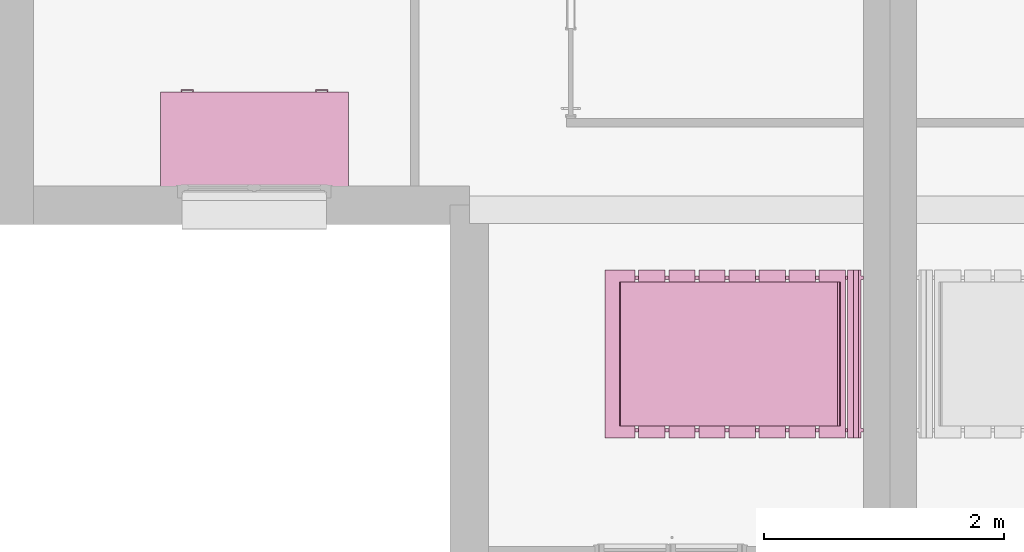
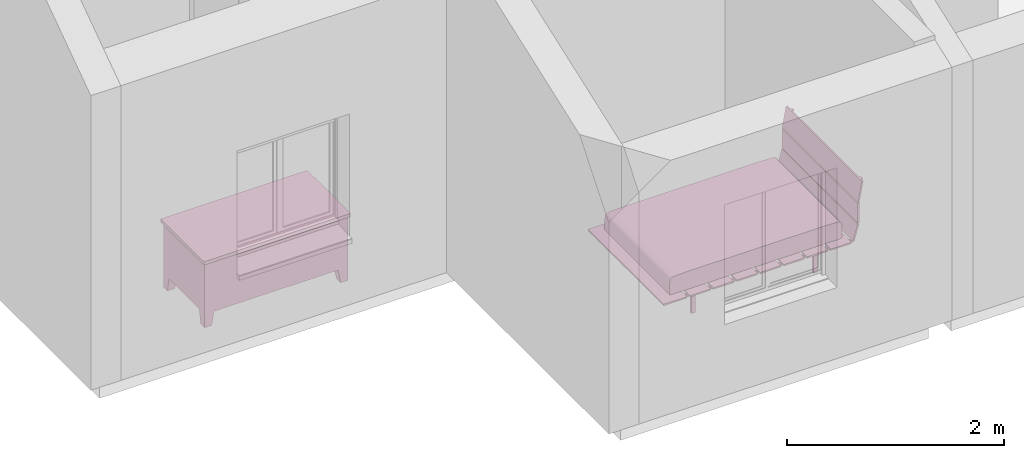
# One storey, part 51 of 61: 2 furnishings.
"""IFC2X3 building model written with IfcOpenShell, lengths in metres."""

from ifc_helpers import new_model, entity, si_unit, converted_unit, derived_unit, direction, frame, frame_2d, origin, origin_2d_with_axis, place, context, subcontext, project, spatial, polyline, circle_curve, parameter, trimmed, segment, composite_curve, rectangle, outline, extrude, faceted_brep, source, transform, mapped, material, material_list, type_object, type_shapes, element, save


model = new_model("IFC2X3")

# Units and contexts
model_context = context("Model", 3, precision=1e-05, world=origin(), true_north=direction((6.12303176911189e-17, 1.0)))
body_context = subcontext(model_context, "Body", "Model", "MODEL_VIEW")
ifc_project = project(units=[si_unit("LENGTHUNIT", "METRE"), si_unit("AREAUNIT", "SQUARE_METRE"), si_unit("VOLUMEUNIT", "CUBIC_METRE"), converted_unit("PLANEANGLEUNIT", "DEGREE", entity("IfcRatioMeasure", 0.0174532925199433), si_unit("PLANEANGLEUNIT", "RADIAN"), dimensions=[0, 0, 0, 0, 0, 0, 0]), si_unit("MASSUNIT", "GRAM", prefix="KILO"), derived_unit("MASSDENSITYUNIT", [(si_unit("MASSUNIT", "GRAM", prefix="KILO"), 1), (si_unit("LENGTHUNIT", "METRE"), -3)]), si_unit("TIMEUNIT", "SECOND"), si_unit("FREQUENCYUNIT", "HERTZ"), si_unit("THERMODYNAMICTEMPERATUREUNIT", "DEGREE_CELSIUS"), derived_unit("THERMALTRANSMITTANCEUNIT", [(si_unit("MASSUNIT", "GRAM", prefix="KILO"), 1), (si_unit("THERMODYNAMICTEMPERATUREUNIT", "KELVIN"), -1), (si_unit("TIMEUNIT", "SECOND"), -3)]), derived_unit("VOLUMETRICFLOWRATEUNIT", [(si_unit("LENGTHUNIT", "METRE"), 3), (si_unit("TIMEUNIT", "SECOND"), -1)]), si_unit("ELECTRICCURRENTUNIT", "AMPERE"), si_unit("ELECTRICVOLTAGEUNIT", "VOLT"), si_unit("POWERUNIT", "WATT"), si_unit("FORCEUNIT", "NEWTON", prefix="KILO"), si_unit("ILLUMINANCEUNIT", "LUX"), si_unit("LUMINOUSFLUXUNIT", "LUMEN"), si_unit("LUMINOUSINTENSITYUNIT", "CANDELA"), derived_unit("USERDEFINED", [(si_unit("MASSUNIT", "GRAM", prefix="KILO"), -1), (si_unit("LENGTHUNIT", "METRE"), -2), (si_unit("TIMEUNIT", "SECOND"), 3), (si_unit("LUMINOUSFLUXUNIT", "LUMEN"), 1)]), derived_unit("LINEARVELOCITYUNIT", [(si_unit("LENGTHUNIT", "METRE"), 1), (si_unit("TIMEUNIT", "SECOND"), -1)]), si_unit("PRESSUREUNIT", "PASCAL"), derived_unit("USERDEFINED", [(si_unit("LENGTHUNIT", "METRE"), -2), (si_unit("MASSUNIT", "GRAM", prefix="KILO"), 1), (si_unit("TIMEUNIT", "SECOND"), -2)])], contexts=[model_context])

# Site, building, storey
site_placement = place(None, origin())
site = spatial("IfcSite", under=ifc_project, at=site_placement, Name="Surface", CompositionType="ELEMENT")
building_placement = place(site_placement, origin())
building = spatial("IfcBuilding", under=site, at=building_placement, CompositionType="ELEMENT")
storey_placement = place(building_placement, frame((0.0, 0.0, 2.82)))
storey = spatial("IfcBuildingStorey", under=building, at=storey_placement, Name="ETAGE", CompositionType="ELEMENT", Elevation=2.82)

# Furnishings
ifc_material_1 = material(Name="Textile - Bleu pâle")
ifc_material_2 = material(Name="Bois - Teck")
ifc_material_3 = material(Name="Plastique - Noir")
ifc_material_list_1 = material_list([ifc_material_1, ifc_material_2, ifc_material_3])
ifc_material_list_2 = material_list([ifc_material_1, ifc_material_2, ifc_material_3])
furniture_type_1 = type_object("IfcFurnitureType", Name="1900 mm x 2000 mm", material=ifc_material_list_2)
shared_shape_1 = source(origin(), body_context, "Body", "SweptSolid", [
    extrude(outline(composite_curve([segment(polyline([(0.753947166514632, -0.0964613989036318), (0.883258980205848, -0.0964613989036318)]), True, "CONTINUOUS"), segment(trimmed(circle_curve(frame_2d((0.82804087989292, 1.1581587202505), x_axis=(0.999878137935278, -0.0156111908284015)), 1.25583465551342), [parameter(273.414556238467)], [parameter(275.726345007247)], True, "PARAMETER"), True, "CONTINUOUS"), segment(trimmed(circle_curve(frame_2d((0.929150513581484, -0.0379486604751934), x_axis=(0.999878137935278, -0.0156111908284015)), 0.0554613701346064), [parameter(275.726345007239)], [parameter(297.64810869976)], True, "PARAMETER"), True, "CONTINUOUS"), segment(trimmed(circle_curve(frame_2d((0.943544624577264, -0.0665015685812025), x_axis=(0.999878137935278, -0.0156111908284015)), 0.0234854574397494), [parameter(297.648108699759)], [parameter(348.570161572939)], True, "PARAMETER"), True, "CONTINUOUS"), segment(trimmed(circle_curve(frame_2d((0.767446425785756, -0.0280276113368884), x_axis=(0.999878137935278, -0.0156111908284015)), 0.203737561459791), [parameter(348.570161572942)], [parameter(3.56222124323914e-13)], True, "PARAMETER"), True, "CONTINUOUS"), segment(polyline([(0.971159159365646, -0.0312081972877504), (0.97301851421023, 0.0878812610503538)]), True, "CONTINUOUS"), segment(polyline([(0.97301851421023, 0.0878812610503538), (0.971187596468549, 0.10002359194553)]), True, "CONTINUOUS"), segment(polyline([(0.971187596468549, 0.10002359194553), (0.955059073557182, 0.102294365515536)]), True, "CONTINUOUS"), segment(polyline([(0.955059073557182, 0.102294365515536), (-0.834665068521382, 0.130237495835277)]), True, "CONTINUOUS"), segment(polyline([(-0.834665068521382, 0.130237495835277), (-0.854928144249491, 0.12651595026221)]), True, "CONTINUOUS"), segment(polyline([(-0.854928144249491, 0.12651595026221), (-0.861114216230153, 0.118536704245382)]), True, "CONTINUOUS"), segment(polyline([(-0.861114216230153, 0.118536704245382), (-0.865626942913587, 0.0883228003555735)]), True, "CONTINUOUS"), segment(polyline([(-0.865626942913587, 0.0883228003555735), (-0.866982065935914, 0.00152878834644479)]), True, "CONTINUOUS"), segment(polyline([(-0.866982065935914, 0.00152878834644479), (-0.863446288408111, -0.0308297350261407)]), True, "CONTINUOUS"), segment(polyline([(-0.863446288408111, -0.0308297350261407), (-0.857669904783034, -0.0490905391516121)]), True, "CONTINUOUS"), segment(polyline([(-0.857669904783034, -0.0490905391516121), (-0.843687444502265, -0.0594036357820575)]), True, "CONTINUOUS"), segment(polyline([(-0.843687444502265, -0.0594036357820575), (-0.817521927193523, -0.0658690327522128)]), True, "CONTINUOUS"), segment(polyline([(-0.817521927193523, -0.0658690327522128), (-0.696416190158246, -0.0738167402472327)]), True, "CONTINUOUS"), segment(polyline([(-0.696416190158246, -0.0738167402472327), (0.753947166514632, -0.0964613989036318)]), True, "CONTINUOUS")], self_intersect=False)), frame((-0.6, -1.05656455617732, 0.367191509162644), z_axis=(1.0, 0.0, 0.0), x_axis=(0.0, -0.999878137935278, -0.0156111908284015)), (0.0, 0.0, 1.0), 1.2),
    extrude(rectangle(XDim=0.249999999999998, YDim=1.4, at=origin_2d_with_axis()), frame((0.0, -2.02499620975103, 0.232311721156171), z_axis=(0.0, 0.0, 1.0), x_axis=(0.0, 1.0, 0.0)), (0.0, 0.0, 1.0), 0.0176882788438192),
    extrude(outline(polyline([(-0.00463256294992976, -0.115042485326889), (0.0130278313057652, -0.115042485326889), (0.00471132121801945, 0.115371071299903), (-0.0131065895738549, 0.114713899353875), (-0.00463256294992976, -0.115042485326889)])), frame((-0.7, -0.051324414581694, 0.783374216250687), z_axis=(1.0, 0.0, 0.0), x_axis=(0.0, 0.975885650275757, -0.218282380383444)), (0.0, 0.0, 1.0), 1.4),
    extrude(rectangle(XDim=0.219999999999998, YDim=1.4, at=frame_2d((-1.38777878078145e-16, 0.0), x_axis=(1.0, 0.0))), frame((0.0, -1.75999620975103, 0.232311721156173), z_axis=(0.0, 0.0, 1.0), x_axis=(0.0, 1.0, 0.0)), (0.0, 0.0, 1.0), 0.0176882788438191),
    extrude(rectangle(XDim=0.219999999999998, YDim=1.4, at=frame_2d((-1.31838984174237e-16, 0.0), x_axis=(1.0, 0.0))), frame((0.0, -1.50999620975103, 0.232311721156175), z_axis=(0.0, 0.0, 1.0), x_axis=(0.0, 1.0, 0.0)), (0.0, 0.0, 1.0), 0.017688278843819),
    extrude(rectangle(XDim=0.219999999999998, YDim=1.4, at=frame_2d((-1.38777878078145e-16, 0.0), x_axis=(1.0, 0.0))), frame((0.0, -1.25999620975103, 0.232311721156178), z_axis=(0.0, 0.0, 1.0), x_axis=(0.0, 1.0, 0.0)), (0.0, 0.0, 1.0), 0.0176882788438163),
    extrude(rectangle(XDim=0.219999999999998, YDim=1.4, at=frame_2d((6.93889390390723e-17, 0.0), x_axis=(1.0, 0.0))), frame((0.0, -1.00999620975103, 0.232311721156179), z_axis=(0.0, 0.0, 1.0), x_axis=(0.0, 1.0, 0.0)), (0.0, 0.0, 1.0), 0.0176882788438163),
    extrude(rectangle(XDim=0.22, YDim=1.4, at=origin_2d_with_axis()), frame((0.0, -0.759996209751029, 0.232311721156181), z_axis=(0.0, 0.0, 1.0), x_axis=(0.0, 1.0, 0.0)), (0.0, 0.0, 1.0), 0.0176882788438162),
    extrude(rectangle(XDim=0.22, YDim=1.4, at=origin_2d_with_axis()), frame((0.0, -0.509996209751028, 0.232311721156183), z_axis=(0.0, 0.0, 1.0), x_axis=(0.0, 1.0, 0.0)), (0.0, 0.0, 1.0), 0.0176882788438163),
    extrude(rectangle(XDim=0.22, YDim=1.4, at=origin_2d_with_axis()), frame((0.0, -0.259996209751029, 0.232311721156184), z_axis=(0.0, 0.0, 1.0), x_axis=(0.0, 1.0, 0.0)), (0.0, 0.0, 1.0), 0.0176882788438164),
    extrude(rectangle(XDim=0.0183684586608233, YDim=1.4, at=origin_2d_with_axis()), frame((0.0, -0.0735868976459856, 0.443802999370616), z_axis=(0.0, 0.0, 1.0), x_axis=(0.0, 1.0, 0.0)), (0.0, 0.0, 1.0), 0.214481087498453),
    extrude(outline(polyline([(-0.0111603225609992, -0.093944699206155), (0.00684599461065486, -0.093944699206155), (0.0109625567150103, 0.0940897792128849), (-0.00664822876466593, 0.093799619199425), (-0.0111603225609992, -0.093944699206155)])), frame((-0.7, -0.100341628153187, 0.340588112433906), z_axis=(1.0, 0.0, 0.0), x_axis=(0.0, 0.969329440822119, -0.245764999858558)), (0.0, 0.0, 1.0), 1.4),
    extrude(rectangle(XDim=0.0421792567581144, YDim=0.0299999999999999, at=origin_2d_with_axis()), frame((-0.634999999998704, -1.80439834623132, 0.0), z_axis=(0.0, 0.0, 1.0), x_axis=(0.0, -1.0, 0.0)), (0.0, 0.0, 1.0), 0.204645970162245),
    extrude(rectangle(XDim=0.0421792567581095, YDim=0.0299999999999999, at=frame_2d((3.29597460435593e-17, 0.0), x_axis=(1.0, 0.0))), frame((-0.634999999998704, -0.505017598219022, 0.0), z_axis=(0.0, 0.0, 1.0), x_axis=(0.0, -1.0, 0.0)), (0.0, 0.0, 1.0), 0.204645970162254),
    extrude(rectangle(XDim=0.0421792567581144, YDim=0.0299999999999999, at=frame_2d((2.70616862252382e-16, 0.0), x_axis=(1.0, 0.0))), frame((0.635000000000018, -1.80439834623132, 0.0), z_axis=(0.0, 0.0, 1.0), x_axis=(0.0, 1.0, 0.0)), (0.0, 0.0, 1.0), 0.204645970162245),
    extrude(rectangle(XDim=0.0421792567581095, YDim=0.0299999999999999, at=frame_2d((-3.29597460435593e-17, 0.0), x_axis=(1.0, 0.0))), frame((0.635000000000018, -0.505017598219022, 0.0), z_axis=(0.0, 0.0, 1.0), x_axis=(0.0, 1.0, 0.0)), (0.0, 0.0, 1.0), 0.204645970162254),
    extrude(outline(composite_curve([segment(polyline([(-0.333462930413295, -0.507724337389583), (-0.311650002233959, -0.507724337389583)]), True, "CONTINUOUS"), segment(polyline([(-0.311650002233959, -0.507724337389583), (-0.317185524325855, -0.272424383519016)]), True, "CONTINUOUS"), segment(polyline([(-0.317185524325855, -0.272424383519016), (-0.363847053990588, -0.050782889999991)]), True, "CONTINUOUS"), segment(polyline([(-0.363847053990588, -0.050782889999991), (-0.350538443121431, 0.161194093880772)]), True, "CONTINUOUS"), segment(polyline([(-0.350538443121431, 0.161194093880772), (1.5836166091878, 0.569312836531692)]), True, "CONTINUOUS"), segment(polyline([(1.5836166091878, 0.569312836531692), (1.55147511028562, 0.589891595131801)]), True, "CONTINUOUS"), segment(polyline([(1.55147511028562, 0.589891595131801), (-0.355855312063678, 0.188346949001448)]), True, "CONTINUOUS"), segment(trimmed(circle_curve(frame_2d((-0.350332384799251, 0.162113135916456), x_axis=(0.978549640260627, 0.206011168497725)), 0.0268088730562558), [parameter(90.0)], [parameter(167.367566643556)], True, "PARAMETER"), True, "CONTINUOUS"), segment(polyline([(-0.377138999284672, 0.162461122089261), (-0.386037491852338, -0.0554545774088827)]), True, "CONTINUOUS"), segment(polyline([(-0.386037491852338, -0.0554545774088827), (-0.339375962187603, -0.277096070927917)]), True, "CONTINUOUS"), segment(polyline([(-0.339375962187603, -0.277096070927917), (-0.333462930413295, -0.507724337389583)]), True, "CONTINUOUS")], self_intersect=False)), frame((-0.649999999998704, -0.430906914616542, 0.462262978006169), z_axis=(1.0, 0.0, 0.0), x_axis=(0.0, -0.978549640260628, 0.206011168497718)), (0.0, 0.0, 1.0), 0.0299999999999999),
    extrude(outline(composite_curve([segment(polyline([(-0.333462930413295, -0.507724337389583), (-0.311650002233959, -0.507724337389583)]), True, "CONTINUOUS"), segment(polyline([(-0.311650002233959, -0.507724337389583), (-0.317185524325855, -0.272424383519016)]), True, "CONTINUOUS"), segment(polyline([(-0.317185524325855, -0.272424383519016), (-0.363847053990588, -0.0507828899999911)]), True, "CONTINUOUS"), segment(polyline([(-0.363847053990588, -0.0507828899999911), (-0.350538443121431, 0.161194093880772)]), True, "CONTINUOUS"), segment(polyline([(-0.350538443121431, 0.161194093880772), (1.5836166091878, 0.569312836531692)]), True, "CONTINUOUS"), segment(polyline([(1.5836166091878, 0.569312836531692), (1.55147511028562, 0.5898915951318)]), True, "CONTINUOUS"), segment(polyline([(1.55147511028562, 0.5898915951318), (-0.355855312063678, 0.188346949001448)]), True, "CONTINUOUS"), segment(trimmed(circle_curve(frame_2d((-0.350332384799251, 0.162113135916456), x_axis=(0.978549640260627, 0.206011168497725)), 0.0268088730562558), [parameter(90.0)], [parameter(167.367566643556)], True, "PARAMETER"), True, "CONTINUOUS"), segment(polyline([(-0.377138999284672, 0.162461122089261), (-0.386037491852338, -0.0554545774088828)]), True, "CONTINUOUS"), segment(polyline([(-0.386037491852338, -0.0554545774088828), (-0.339375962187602, -0.277096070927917)]), True, "CONTINUOUS"), segment(polyline([(-0.339375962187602, -0.277096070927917), (-0.333462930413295, -0.507724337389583)]), True, "CONTINUOUS")], self_intersect=False)), frame((0.620000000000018, -0.430906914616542, 0.462262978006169), z_axis=(1.0, 0.0, 0.0), x_axis=(0.0, -0.978549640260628, 0.206011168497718)), (0.0, 0.0, 1.0), 0.0299999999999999),
])
type_shapes(furniture_type_1, [shared_shape_1])
furnishing_1_placement = place(storey_placement, frame((68.6146263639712, 78.8077566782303, 0.0199999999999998), z_axis=(0.0, 0.0, 1.0), x_axis=(0.0, -1.0, 0.0)))
element("IfcFurnishingElement", 1, at=furnishing_1_placement, inside=storey, type_object=furniture_type_1, material=ifc_material_list_1, Name="Lit à lattes:1900 mm x 2000 mm", ObjectType="Lit à lattes:1900 mm x 2000 mm", context=body_context, shape_type="MappedRepresentation", body=[
    mapped(shared_shape_1, transform((0.0, 0.0, 0.0), scale=1.0)),
])
ifc_material_4 = material(Name="Bois - Mélaminé ivoire")
ifc_material_5 = material(Name="Métal - Chrome")
ifc_material_6 = material(Name="Bois - Cerisier")
ifc_material_list_3 = material_list([ifc_material_4, ifc_material_5, ifc_material_6])
ifc_material_list_4 = material_list([ifc_material_4, ifc_material_5, ifc_material_6])
furniture_type_2 = type_object("IfcFurnitureType", Name="1525 mm x 762 mm", material=ifc_material_list_4)
shared_shape_2 = source(origin(), body_context, "Body", "Brep", [
    faceted_brep([(1.13765, -0.761999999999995, 0.70485), (1.50595, -0.761999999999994, 0.70485), (1.50595, -0.761999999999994, 0.60325), (1.13765, -0.761999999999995, 0.60325), (1.13765, -0.774699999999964, 0.60325), (1.13765, -0.774699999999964, 0.70485), (1.50595, -0.774699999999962, 0.60325), (1.50595, -0.774699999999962, 0.70485)], [[[0, 1, 2, 3]], [[3, 4, 5, 0]], [[2, 6, 4, 3]], [[1, 7, 6, 2]], [[0, 5, 7, 1]], [[5, 4, 6, 7]]]),
    faceted_brep([(1.50595, -0.774699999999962, 0.5842), (1.13765, -0.774699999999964, 0.5842), (1.13765, -0.774699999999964, 0.17105), (1.50595, -0.774699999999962, 0.17105), (1.13765, -0.761999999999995, 0.5842), (1.50595, -0.761999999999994, 0.5842), (1.13765, -0.761999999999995, 0.17105), (1.50595, -0.761999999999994, 0.17105)], [[[0, 1, 2, 3]], [[4, 1, 0, 5]], [[6, 2, 1, 4]], [[7, 3, 2, 6]], [[5, 0, 3, 7]], [[5, 7, 6, 4]]]),
    faceted_brep([(0.38735, -0.761999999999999, 0.70485), (0.38735, -0.761999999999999, 0.60285), (0.01905, -0.761999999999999, 0.60285), (0.01905, -0.761999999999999, 0.70485), (0.01905, -0.774700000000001, 0.70485), (0.38735, -0.774700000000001, 0.70485), (0.01905, -0.774700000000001, 0.60285), (0.38735, -0.774700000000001, 0.60285)], [[[0, 1, 2, 3]], [[3, 4, 5, 0]], [[2, 6, 4, 3]], [[1, 7, 6, 2]], [[0, 5, 7, 1]], [[5, 4, 6, 7]]]),
    faceted_brep([(0.01905, -0.774700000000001, 0.5838), (0.01905, -0.774700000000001, 0.4822), (0.38735, -0.774700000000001, 0.4822), (0.38735, -0.774700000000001, 0.5838), (0.01905, -0.761999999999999, 0.4822), (0.01905, -0.761999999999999, 0.5838), (0.38735, -0.761999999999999, 0.4822), (0.38735, -0.761999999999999, 0.5838)], [[[0, 1, 2, 3]], [[4, 1, 0, 5]], [[6, 2, 1, 4]], [[7, 3, 2, 6]], [[5, 0, 3, 7]], [[5, 7, 6, 4]]]),
    faceted_brep([(0.01905, -0.761999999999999, 0.17105), (0.01905, -0.774700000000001, 0.17105), (0.01905, -0.774700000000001, 0.3425), (0.01905, -0.761999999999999, 0.3425), (0.38735, -0.761999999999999, 0.17105), (0.38735, -0.774700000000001, 0.17105), (0.38735, -0.761999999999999, 0.3425), (0.38735, -0.774700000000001, 0.3425)], [[[0, 1, 2, 3]], [[4, 5, 1, 0]], [[6, 7, 5, 4]], [[3, 2, 7, 6]], [[2, 1, 5, 7]], [[3, 6, 4, 0]]]),
    faceted_brep([(0.01905, -0.761999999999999, 0.36155), (0.01905, -0.774700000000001, 0.36155), (0.01905, -0.774700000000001, 0.46315), (0.01905, -0.761999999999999, 0.46315), (0.38735, -0.761999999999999, 0.36155), (0.38735, -0.774700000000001, 0.36155), (0.38735, -0.761999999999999, 0.46315), (0.38735, -0.774700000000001, 0.46315)], [[[0, 1, 2, 3]], [[4, 5, 1, 0]], [[6, 7, 5, 4]], [[3, 2, 7, 6]], [[2, 1, 5, 7]], [[3, 6, 4, 0]]]),
    faceted_brep([(1.42339999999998, -0.761999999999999, 0.152), (1.52499999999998, -0.761999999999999, 0.152), (1.52499999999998, -0.660399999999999, 0.152), (1.42339999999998, -0.660399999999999, 0.152), (1.44879999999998, -0.762, 0.0), (1.44879999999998, -0.6858, 0.0), (1.52499999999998, -0.6858, 0.0), (1.52499999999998, -0.762, 0.0)], [[[0, 1, 2, 3]], [[4, 5, 6, 7]], [[4, 0, 3, 5]], [[5, 3, 2, 6]], [[6, 2, 1, 7]], [[7, 1, 0, 4]]]),
    faceted_brep([(1.4234, 0.0, 0.152), (1.4234, -0.1016, 0.152), (1.525, -0.1016, 0.152), (1.525, 0.0, 0.152), (1.4488, 0.0, 0.0), (1.525, 0.0, 0.0), (1.525, -0.0761999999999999, 0.0), (1.4488, -0.0761999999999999, 0.0)], [[[0, 1, 2, 3]], [[4, 5, 6, 7]], [[4, 0, 3, 5]], [[5, 3, 2, 6]], [[6, 2, 1, 7]], [[7, 1, 0, 4]]]),
    faceted_brep([(0.1016, 0.0, 0.152), (0.0, 0.0, 0.152), (0.0, -0.1016, 0.152), (0.1016, -0.1016, 0.152), (0.0762, 0.0, 0.0), (0.0762, -0.0761999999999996, 0.0), (0.0, -0.0761999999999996, 0.0), (0.0, 0.0, 0.0)], [[[0, 1, 2, 3]], [[4, 5, 6, 7]], [[4, 0, 3, 5]], [[5, 3, 2, 6]], [[6, 2, 1, 7]], [[7, 1, 0, 4]]]),
    faceted_brep([(0.1016, -0.762000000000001, 0.152), (0.1016, -0.660400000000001, 0.152), (0.0, -0.660400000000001, 0.152), (0.0, -0.762000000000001, 0.152), (0.0761999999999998, -0.762000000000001, 0.0), (0.0, -0.762000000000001, 0.0), (0.0, -0.685800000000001, 0.0), (0.0761999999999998, -0.685800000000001, 0.0)], [[[0, 1, 2, 3]], [[4, 5, 6, 7]], [[4, 0, 3, 5]], [[5, 3, 2, 6]], [[6, 2, 1, 7]], [[7, 1, 0, 4]]]),
    faceted_brep([(0.4064, -0.761999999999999, 0.723900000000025), (0.4064, -0.0508000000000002, 0.723900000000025), (1.11860000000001, -0.0508000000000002, 0.723900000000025), (1.11860000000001, -0.761999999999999, 0.723900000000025), (1.525, -0.761999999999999, 0.723900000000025), (1.525, 0.0, 0.723900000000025), (0.0, 0.0, 0.723900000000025), (0.0, -0.761999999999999, 0.723900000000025), (0.4064, -0.761999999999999, 0.152), (0.0, -0.761999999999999, 0.152), (0.0, 0.0, 0.152), (1.525, 0.0, 0.152), (1.525, -0.761999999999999, 0.152), (1.11860000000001, -0.761999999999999, 0.152), (1.11860000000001, -0.0508000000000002, 0.152), (0.4064, -0.0508000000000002, 0.152)], [[[0, 1, 2, 3, 4, 5, 6, 7]], [[8, 9, 10, 11, 12, 13, 14, 15]], [[7, 9, 8, 0]], [[6, 10, 9, 7]], [[5, 11, 10, 6]], [[4, 12, 11, 5]], [[3, 13, 12, 4]], [[2, 14, 13, 3]], [[1, 15, 14, 2]], [[0, 8, 15, 1]]]),
    faceted_brep([(1.54405000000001, -0.781049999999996, 0.761999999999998), (1.54405000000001, 0.0190500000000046, 0.761999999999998), (-0.0190499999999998, 0.0190500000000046, 0.761999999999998), (-0.0190499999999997, -0.781049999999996, 0.761999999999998), (1.54405000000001, -0.781049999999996, 0.723900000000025), (-0.0190499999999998, -0.781049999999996, 0.723900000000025), (-0.0190499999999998, 0.0190500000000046, 0.723900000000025), (1.54405000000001, 0.0190500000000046, 0.723900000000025)], [[[0, 1, 2, 3]], [[4, 5, 6, 7]], [[3, 5, 4, 0]], [[2, 6, 5, 3]], [[1, 7, 6, 2]], [[0, 4, 7, 1]]]),
    faceted_brep([(1.36624999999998, -0.774699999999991, 0.546100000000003), (1.37259999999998, -0.774699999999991, 0.546100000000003), (1.37259999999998, -0.774699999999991, 0.533399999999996), (1.36624999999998, -0.774699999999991, 0.533399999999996), (1.36624999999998, -0.793749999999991, 0.533399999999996), (1.36624999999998, -0.793749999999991, 0.546100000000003), (1.37259999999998, -0.80009999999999, 0.533399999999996), (1.37259999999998, -0.80009999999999, 0.546100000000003), (1.27734999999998, -0.793749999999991, 0.533399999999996), (1.27734999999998, -0.793749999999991, 0.546100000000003), (1.27099999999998, -0.80009999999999, 0.533399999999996), (1.27099999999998, -0.80009999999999, 0.546100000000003), (1.27734999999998, -0.774699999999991, 0.533399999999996), (1.27734999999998, -0.774699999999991, 0.546100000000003), (1.27099999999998, -0.774699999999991, 0.533399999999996), (1.27099999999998, -0.774699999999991, 0.546100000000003)], [[[0, 1, 2, 3]], [[3, 4, 5, 0]], [[2, 6, 4, 3]], [[1, 7, 6, 2]], [[0, 5, 7, 1]], [[4, 8, 9, 5]], [[6, 10, 8, 4]], [[7, 11, 10, 6]], [[5, 9, 11, 7]], [[8, 12, 13, 9]], [[10, 14, 12, 8]], [[11, 15, 14, 10]], [[9, 13, 15, 11]], [[13, 12, 14, 15]]]),
    faceted_brep([(1.36624999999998, -0.774699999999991, 0.654050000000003), (1.36624999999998, -0.79374999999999, 0.654050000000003), (1.36624999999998, -0.79374999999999, 0.666750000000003), (1.36624999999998, -0.774699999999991, 0.666750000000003), (1.37259999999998, -0.774699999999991, 0.654050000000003), (1.37259999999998, -0.800099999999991, 0.654050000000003), (1.37259999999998, -0.774699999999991, 0.666750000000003), (1.37259999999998, -0.800099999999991, 0.666750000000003), (1.27734999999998, -0.79374999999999, 0.654050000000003), (1.27734999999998, -0.79374999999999, 0.666750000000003), (1.27099999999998, -0.800099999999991, 0.654050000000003), (1.27099999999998, -0.800099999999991, 0.666750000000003), (1.27734999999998, -0.774699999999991, 0.666750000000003), (1.27734999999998, -0.774699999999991, 0.654050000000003), (1.27099999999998, -0.774699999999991, 0.654050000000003), (1.27099999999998, -0.774699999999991, 0.666750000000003)], [[[0, 1, 2, 3]], [[4, 5, 1, 0]], [[6, 7, 5, 4]], [[3, 2, 7, 6]], [[1, 8, 9, 2]], [[5, 10, 8, 1]], [[7, 11, 10, 5]], [[2, 9, 11, 7]], [[12, 13, 14, 15]], [[8, 13, 12, 9]], [[10, 14, 13, 8]], [[11, 15, 14, 10]], [[9, 12, 15, 11]], [[3, 6, 4, 0]]]),
    faceted_brep([(0.15875, -0.774699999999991, 0.3048), (0.15875, -0.774699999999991, 0.2921), (0.1524, -0.774699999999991, 0.2921), (0.1524, -0.774699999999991, 0.3048), (0.1524, -0.800099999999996, 0.3048), (0.15875, -0.793749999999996, 0.3048), (0.1524, -0.800099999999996, 0.2921), (0.15875, -0.793749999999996, 0.2921), (0.254, -0.800099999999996, 0.3048), (0.24765, -0.793749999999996, 0.3048), (0.254, -0.800099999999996, 0.2921), (0.24765, -0.793749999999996, 0.2921), (0.254, -0.774699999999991, 0.3048), (0.24765, -0.774699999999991, 0.3048), (0.254, -0.774699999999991, 0.2921), (0.24765, -0.774699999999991, 0.2921)], [[[0, 1, 2, 3]], [[3, 4, 5, 0]], [[2, 6, 4, 3]], [[1, 7, 6, 2]], [[0, 5, 7, 1]], [[4, 8, 9, 5]], [[6, 10, 8, 4]], [[7, 11, 10, 6]], [[5, 9, 11, 7]], [[8, 12, 13, 9]], [[10, 14, 12, 8]], [[11, 15, 14, 10]], [[9, 13, 15, 11]], [[13, 12, 14, 15]]]),
    faceted_brep([(0.1524, -0.774699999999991, 0.425450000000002), (0.1524, -0.800099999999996, 0.425450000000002), (0.15875, -0.793749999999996, 0.425450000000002), (0.15875, -0.774699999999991, 0.425450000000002), (0.1524, -0.774699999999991, 0.412750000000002), (0.1524, -0.800099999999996, 0.412750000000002), (0.15875, -0.774699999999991, 0.412750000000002), (0.15875, -0.793749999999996, 0.412750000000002), (0.254, -0.800099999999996, 0.425450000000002), (0.24765, -0.793749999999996, 0.425450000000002), (0.254, -0.800099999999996, 0.412750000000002), (0.24765, -0.793749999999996, 0.412750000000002), (0.254, -0.774699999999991, 0.425450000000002), (0.24765, -0.774699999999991, 0.425450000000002), (0.254, -0.774699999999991, 0.412750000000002), (0.24765, -0.774699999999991, 0.412750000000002)], [[[0, 1, 2, 3]], [[4, 5, 1, 0]], [[6, 7, 5, 4]], [[3, 2, 7, 6]], [[1, 8, 9, 2]], [[5, 10, 8, 1]], [[7, 11, 10, 5]], [[2, 9, 11, 7]], [[8, 12, 13, 9]], [[10, 14, 12, 8]], [[11, 15, 14, 10]], [[9, 13, 15, 11]], [[13, 12, 14, 15]], [[3, 6, 4, 0]]]),
    faceted_brep([(0.1524, -0.774699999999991, 0.5461), (0.1524, -0.800099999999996, 0.5461), (0.15875, -0.793749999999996, 0.5461), (0.15875, -0.774699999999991, 0.5461), (0.1524, -0.774699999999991, 0.5334), (0.1524, -0.800099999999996, 0.5334), (0.15875, -0.774699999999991, 0.5334), (0.15875, -0.793749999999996, 0.5334), (0.254, -0.800099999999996, 0.5461), (0.24765, -0.793749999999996, 0.5461), (0.254, -0.800099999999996, 0.5334), (0.24765, -0.793749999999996, 0.5334), (0.254, -0.774699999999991, 0.5461), (0.24765, -0.774699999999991, 0.5461), (0.254, -0.774699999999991, 0.5334), (0.24765, -0.774699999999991, 0.5334)], [[[0, 1, 2, 3]], [[4, 5, 1, 0]], [[6, 7, 5, 4]], [[3, 2, 7, 6]], [[1, 8, 9, 2]], [[5, 10, 8, 1]], [[7, 11, 10, 5]], [[2, 9, 11, 7]], [[8, 12, 13, 9]], [[10, 14, 12, 8]], [[11, 15, 14, 10]], [[9, 13, 15, 11]], [[13, 12, 14, 15]], [[3, 6, 4, 0]]]),
    faceted_brep([(0.1524, -0.774699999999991, 0.666750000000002), (0.1524, -0.800099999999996, 0.666750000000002), (0.15875, -0.793749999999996, 0.666750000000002), (0.15875, -0.774699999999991, 0.666750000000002), (0.1524, -0.774699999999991, 0.654050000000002), (0.1524, -0.800099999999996, 0.654050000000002), (0.15875, -0.774699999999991, 0.654050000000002), (0.15875, -0.793749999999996, 0.654050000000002), (0.254, -0.800099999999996, 0.666750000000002), (0.24765, -0.793749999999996, 0.666750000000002), (0.254, -0.800099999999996, 0.654050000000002), (0.24765, -0.793749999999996, 0.654050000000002), (0.24765, -0.774699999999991, 0.666750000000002), (0.254, -0.774699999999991, 0.666750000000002), (0.254, -0.774699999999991, 0.654050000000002), (0.24765, -0.774699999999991, 0.654050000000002)], [[[0, 1, 2, 3]], [[4, 5, 1, 0]], [[6, 7, 5, 4]], [[3, 2, 7, 6]], [[1, 8, 9, 2]], [[5, 10, 8, 1]], [[7, 11, 10, 5]], [[2, 9, 11, 7]], [[12, 13, 14, 15]], [[8, 13, 12, 9]], [[10, 14, 13, 8]], [[11, 15, 14, 10]], [[9, 12, 15, 11]], [[3, 6, 4, 0]]]),
])
type_shapes(furniture_type_2, [shared_shape_2])
furnishing_2_placement = place(storey_placement, frame((64.3096263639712, 80.2077566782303, 0.0199999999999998), z_axis=(0.0, 0.0, 1.0), x_axis=(-1.0, 0.0, 0.0)))
element("IfcFurnishingElement", 2, at=furnishing_2_placement, inside=storey, type_object=furniture_type_2, material=ifc_material_list_3, Name="Bureau commun:1525 mm x 762 mm", ObjectType="Bureau commun:1525 mm x 762 mm", context=body_context, shape_type="MappedRepresentation", body=[
    mapped(shared_shape_2, transform((0.0, 0.0, 0.0), scale=1.0)),
])

save(model, "model.ifc")
